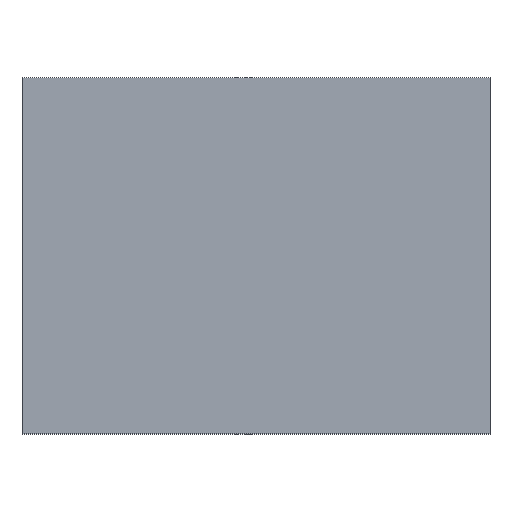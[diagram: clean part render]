
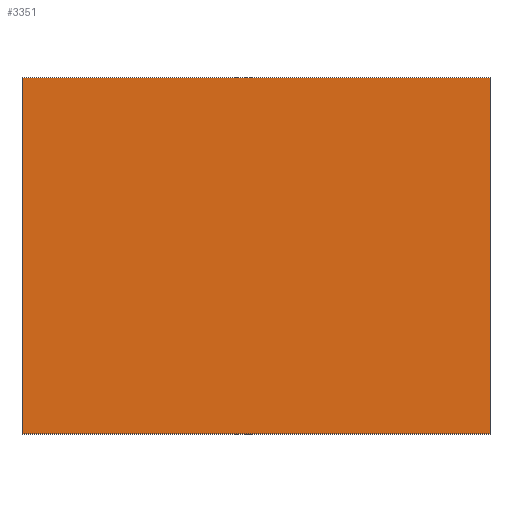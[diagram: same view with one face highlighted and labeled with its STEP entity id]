
A CAD part, top view. The second image highlights one B-rep face of the part: STEP entity #3351.
In plain terms, the highlighted planar face has unit normal (0, 0, 1).
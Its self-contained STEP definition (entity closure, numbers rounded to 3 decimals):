
#3215=CARTESIAN_POINT('Vertex',(104.5,79.5,29.)) ;
#3229=CARTESIAN_POINT('Vertex',(-104.5,79.5,29.)) ;
#3232=CARTESIAN_POINT('Line Origine',(0.,79.5,29.)) ;
#3260=CARTESIAN_POINT('Vertex',(-104.5,-79.5,29.)) ;
#3263=CARTESIAN_POINT('Line Origine',(-104.5,0.,29.)) ;
#3291=CARTESIAN_POINT('Vertex',(104.5,-79.5,29.)) ;
#3294=CARTESIAN_POINT('Line Origine',(0.,-79.5,29.)) ;
#3316=CARTESIAN_POINT('Line Origine',(104.5,0.,29.)) ;
#3340=CARTESIAN_POINT('Axis2P3D Location',(0.,0.,29.)) ;
#3233=DIRECTION('Vector Direction',(1.,0.,0.)) ;
#3264=DIRECTION('Vector Direction',(0.,1.,0.)) ;
#3295=DIRECTION('Vector Direction',(-1.,0.,0.)) ;
#3317=DIRECTION('Vector Direction',(0.,-1.,0.)) ;
#3341=DIRECTION('Axis2P3D Direction',(0.,0.,1.)) ;
#3342=DIRECTION('Axis2P3D XDirection',(1.,0.,0.)) ;
#3343=AXIS2_PLACEMENT_3D('Plane Axis2P3D',#3340,#3341,#3342) ;
#3346=ORIENTED_EDGE('',*,*,#3236,.T.) ;
#3347=ORIENTED_EDGE('',*,*,#3267,.T.) ;
#3348=ORIENTED_EDGE('',*,*,#3298,.T.) ;
#3349=ORIENTED_EDGE('',*,*,#3320,.T.) ;
#3234=VECTOR('Line Direction',#3233,1.) ;
#3265=VECTOR('Line Direction',#3264,1.) ;
#3296=VECTOR('Line Direction',#3295,1.) ;
#3318=VECTOR('Line Direction',#3317,1.) ;
#3351=ADVANCED_FACE('cavity',(#3350),#3344,.T.) ;
#3236=EDGE_CURVE('',#3216,#3230,#3235,.F.) ;
#3267=EDGE_CURVE('',#3230,#3261,#3266,.F.) ;
#3298=EDGE_CURVE('',#3261,#3292,#3297,.F.) ;
#3320=EDGE_CURVE('',#3292,#3216,#3319,.F.) ;
#3345=EDGE_LOOP('',(#3346,#3347,#3348,#3349)) ;
#3350=FACE_OUTER_BOUND('',#3345,.T.) ;
#3235=LINE('Line',#3232,#3234) ;
#3266=LINE('Line',#3263,#3265) ;
#3297=LINE('Line',#3294,#3296) ;
#3319=LINE('Line',#3316,#3318) ;
#3344=PLANE('Plane',#3343) ;
#3216=VERTEX_POINT('',#3215) ;
#3230=VERTEX_POINT('',#3229) ;
#3261=VERTEX_POINT('',#3260) ;
#3292=VERTEX_POINT('',#3291) ;
